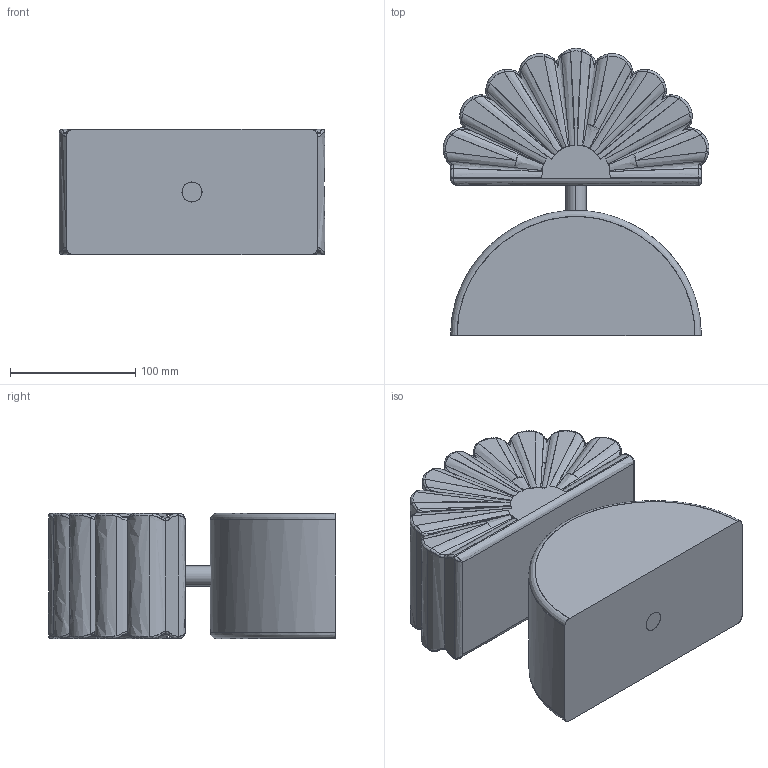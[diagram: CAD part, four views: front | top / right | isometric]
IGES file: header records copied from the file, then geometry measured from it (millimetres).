
Start section: SolidWorks IGES file using analytic representation for surfaces
Global section: file name: C:\Users\Agustin\Desktop\ARNOLD\2024 SEPTIEMBRE\2D\GINA\2D-3D S1334\GINA_S1334.IGS; native system: SolidWorks 2018; preprocessor: SolidWorks 2018; author: Agustin; date: 240918.094104; units: millimetre
Bounding box: 212.24 x 229.17 x 100 mm (x, y, z)
Surface area: 182535.4 mm2 (no closed solid volume)
Topology: 0 solids, 0 shells, 259 faces, 2713 edges, 2704 vertices
Faces by surface type: bspline 200, revolution 59
